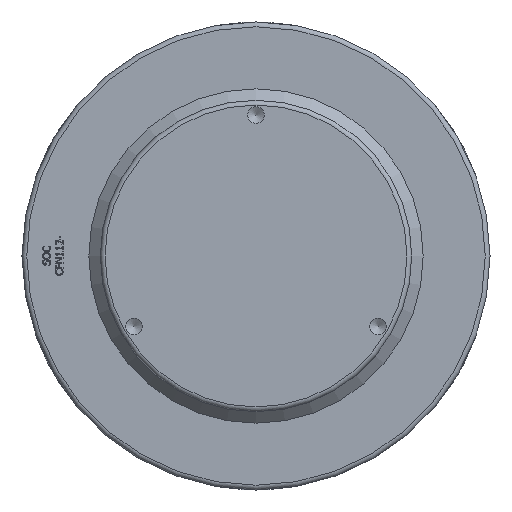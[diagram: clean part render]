
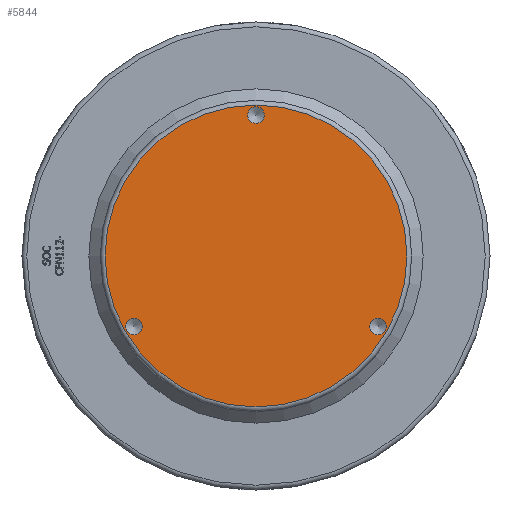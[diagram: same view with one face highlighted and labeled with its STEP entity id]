
A CAD part, front view. The second image highlights one B-rep face of the part: STEP entity #5844.
In plain terms, the highlighted planar face has unit normal (0, -1, 0) as drawn and (0, 1, 0) by its records, which use the part's own axes.
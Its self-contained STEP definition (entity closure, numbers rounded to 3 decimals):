
#1617=PLANE('',#6160);
#1709=FACE_BOUND('',#2263,.T.);
#1710=FACE_BOUND('',#2264,.T.);
#1711=FACE_BOUND('',#2265,.T.);
#1917=FACE_OUTER_BOUND('',#2262,.T.);
#2262=EDGE_LOOP('',(#4785));
#2263=EDGE_LOOP('',(#4786));
#2264=EDGE_LOOP('',(#4787));
#2265=EDGE_LOOP('',(#4788));
#2475=CIRCLE('',#6073,8.647);
#2477=CIRCLE('',#6077,8.647);
#2479=CIRCLE('',#6081,8.647);
#2481=CIRCLE('',#6158,158.);
#2501=VERTEX_POINT('',#7232);
#2503=VERTEX_POINT('',#7238);
#2505=VERTEX_POINT('',#7244);
#2783=VERTEX_POINT('',#9063);
#3089=EDGE_CURVE('',#2501,#2501,#2475,.T.);
#3091=EDGE_CURVE('',#2503,#2503,#2477,.T.);
#3093=EDGE_CURVE('',#2505,#2505,#2479,.T.);
#3509=EDGE_CURVE('',#2783,#2783,#2481,.T.);
#4785=ORIENTED_EDGE('',*,*,#3509,.F.);
#4786=ORIENTED_EDGE('',*,*,#3089,.T.);
#4787=ORIENTED_EDGE('',*,*,#3091,.T.);
#4788=ORIENTED_EDGE('',*,*,#3093,.T.);
#5844=ADVANCED_FACE('',(#1917,#1709,#1710,#1711),#1617,.T.);
#6073=AXIS2_PLACEMENT_3D('',#7233,#6289,#6290);
#6077=AXIS2_PLACEMENT_3D('',#7239,#6297,#6298);
#6081=AXIS2_PLACEMENT_3D('',#7245,#6305,#6306);
#6158=AXIS2_PLACEMENT_3D('',#9064,#6723,#6724);
#6160=AXIS2_PLACEMENT_3D('',#9067,#6727,#6728);
#6289=DIRECTION('center_axis',(0.,-1.,0.));
#6290=DIRECTION('ref_axis',(-0.5,0.,-0.866));
#6297=DIRECTION('center_axis',(0.,-1.,0.));
#6298=DIRECTION('ref_axis',(-0.5,0.,0.866));
#6305=DIRECTION('center_axis',(0.,-1.,0.));
#6306=DIRECTION('ref_axis',(1.,0.,0.));
#6723=DIRECTION('center_axis',(0.,-1.,0.));
#6724=DIRECTION('ref_axis',(-1.,0.,0.));
#6727=DIRECTION('center_axis',(0.,1.,0.));
#6728=DIRECTION('ref_axis',(0.,0.,1.));
#7232=CARTESIAN_POINT('',(123.415,294.,-81.239));
#7233=CARTESIAN_POINT('Origin',(127.739,294.,-73.75));
#7238=CARTESIAN_POINT('',(-132.062,294.,-66.261));
#7239=CARTESIAN_POINT('Origin',(-127.739,294.,-73.75));
#7244=CARTESIAN_POINT('',(8.647,294.,147.5));
#7245=CARTESIAN_POINT('Origin',(0.,294.,147.5));
#9063=CARTESIAN_POINT('',(158.,294.,0.));
#9064=CARTESIAN_POINT('Origin',(0.,294.,0.));
#9067=CARTESIAN_POINT('Origin',(163.,294.,0.));
